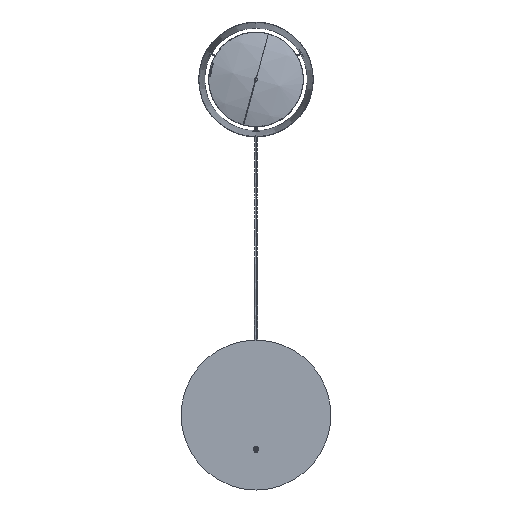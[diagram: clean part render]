
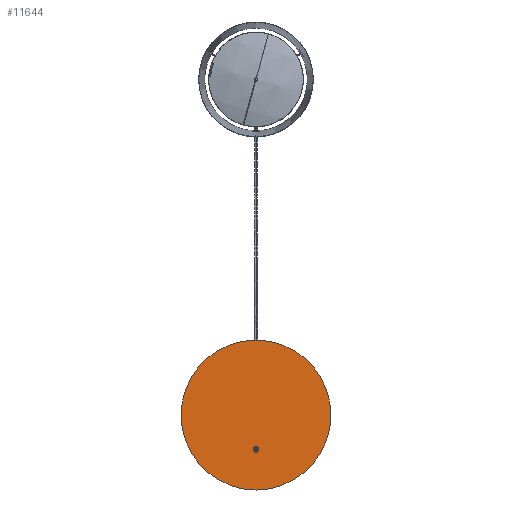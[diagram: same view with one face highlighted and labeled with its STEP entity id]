
A CAD part, front view. The second image highlights one B-rep face of the part: STEP entity #11644.
In plain terms, the highlighted planar face has unit normal (0, -1, 0).
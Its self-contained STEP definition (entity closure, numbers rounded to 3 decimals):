
#33 = CARTESIAN_POINT ( 'NONE',  ( 0., -197.162, -13.293 ) ) ;
#596 = ORIENTED_EDGE ( 'NONE', *, *, #3195, .F. ) ;
#961 = DIRECTION ( 'NONE',  ( 0., 0., 1. ) ) ;
#1628 = AXIS2_PLACEMENT_3D ( 'NONE', #12458, #12387, #3328 ) ;
#1709 = DIRECTION ( 'NONE',  ( 0., 0., 1. ) ) ;
#2352 = FACE_OUTER_BOUND ( 'NONE', #9161, .T. ) ;
#2464 = EDGE_CURVE ( 'NONE', #9019, #11281, #3515, .T. ) ;
#2860 = ORIENTED_EDGE ( 'NONE', *, *, #12164, .T. ) ;
#2993 = CIRCLE ( 'NONE', #4677, 9.25 ) ;
#3195 = EDGE_CURVE ( 'NONE', #6921, #10905, #6481, .T. ) ;
#3287 = CARTESIAN_POINT ( 'NONE',  ( 0., -197.162, -153.293 ) ) ;
#3328 = DIRECTION ( 'NONE',  ( 0., 0., 1. ) ) ;
#3337 = PLANE ( 'NONE',  #9739 ) ;
#3515 = CIRCLE ( 'NONE', #1628, 2. ) ;
#3653 = EDGE_CURVE ( 'NONE', #10905, #6921, #10930, .T. ) ;
#4457 = CIRCLE ( 'NONE', #5310, 9.25 ) ;
#4677 = AXIS2_PLACEMENT_3D ( 'NONE', #10464, #5303, #10600 ) ;
#4725 = CARTESIAN_POINT ( 'NONE',  ( 0., -197.162, -162.543 ) ) ;
#5078 = ORIENTED_EDGE ( 'NONE', *, *, #2464, .T. ) ;
#5303 = DIRECTION ( 'NONE',  ( 0., 1., 0. ) ) ;
#5310 = AXIS2_PLACEMENT_3D ( 'NONE', #3287, #8321, #10235 ) ;
#5899 = ORIENTED_EDGE ( 'NONE', *, *, #12290, .T. ) ;
#6109 = DIRECTION ( 'NONE',  ( 0., 1., 0. ) ) ;
#6481 = CIRCLE ( 'NONE', #11973, 300. ) ;
#6681 = CARTESIAN_POINT ( 'NONE',  ( -1.672, -197.162, -144.196 ) ) ;
#6921 = VERTEX_POINT ( 'NONE', #7557 ) ;
#7496 = CARTESIAN_POINT ( 'NONE',  ( 0., -197.162, -13.293 ) ) ;
#7557 = CARTESIAN_POINT ( 'NONE',  ( 0., -197.162, -313.293 ) ) ;
#8321 = DIRECTION ( 'NONE',  ( 0., 1., 0. ) ) ;
#8431 = DIRECTION ( 'NONE',  ( 0., 1., 0. ) ) ;
#8812 = AXIS2_PLACEMENT_3D ( 'NONE', #33, #6109, #961 ) ;
#8962 = CARTESIAN_POINT ( 'NONE',  ( 0., -197.162, -13.293 ) ) ;
#9019 = VERTEX_POINT ( 'NONE', #6681 ) ;
#9095 = FACE_BOUND ( 'NONE', #11920, .T. ) ;
#9161 = EDGE_LOOP ( 'NONE', ( #596, #11781 ) ) ;
#9739 = AXIS2_PLACEMENT_3D ( 'NONE', #7496, #8431, #12582 ) ;
#9823 = CARTESIAN_POINT ( 'NONE',  ( 0., -197.162, 286.707 ) ) ;
#10235 = DIRECTION ( 'NONE',  ( 0., 0., 1. ) ) ;
#10464 = CARTESIAN_POINT ( 'NONE',  ( 0., -197.162, -153.293 ) ) ;
#10600 = DIRECTION ( 'NONE',  ( 0., 0., 1. ) ) ;
#10905 = VERTEX_POINT ( 'NONE', #9823 ) ;
#10930 = CIRCLE ( 'NONE', #8812, 300. ) ;
#11281 = VERTEX_POINT ( 'NONE', #12733 ) ;
#11519 = VERTEX_POINT ( 'NONE', #4725 ) ;
#11644 = ADVANCED_FACE ( 'NONE', ( #9095, #2352 ), #3337, .F. ) ;
#11781 = ORIENTED_EDGE ( 'NONE', *, *, #3653, .F. ) ;
#11806 = DIRECTION ( 'NONE',  ( 0., 1., 0. ) ) ;
#11920 = EDGE_LOOP ( 'NONE', ( #2860, #5899, #5078 ) ) ;
#11973 = AXIS2_PLACEMENT_3D ( 'NONE', #8962, #11806, #1709 ) ;
#12164 = EDGE_CURVE ( 'NONE', #11281, #11519, #2993, .T. ) ;
#12290 = EDGE_CURVE ( 'NONE', #11519, #9019, #4457, .T. ) ;
#12387 = DIRECTION ( 'NONE',  ( 0., 1., 0. ) ) ;
#12458 = CARTESIAN_POINT ( 'NONE',  ( 0., -197.162, -145.293 ) ) ;
#12582 = DIRECTION ( 'NONE',  ( 0., 0., 1. ) ) ;
#12733 = CARTESIAN_POINT ( 'NONE',  ( 1.672, -197.162, -144.196 ) ) ;
